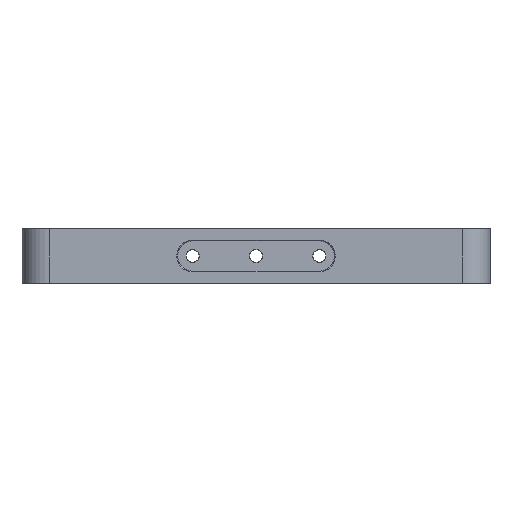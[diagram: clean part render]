
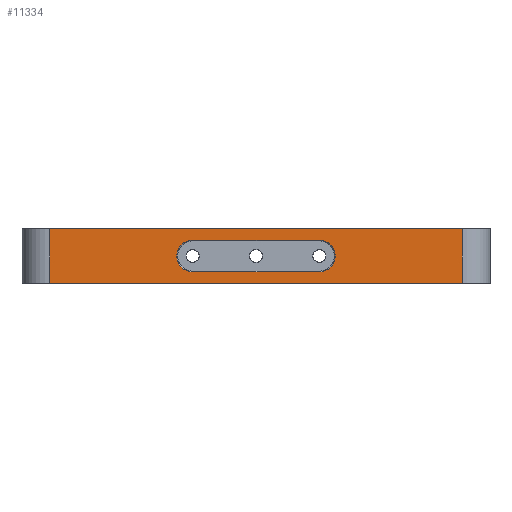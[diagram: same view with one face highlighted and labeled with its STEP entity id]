
A CAD part, front view. The second image highlights one B-rep face of the part: STEP entity #11334.
In plain terms, the highlighted planar face has unit normal (0, -1, 0).
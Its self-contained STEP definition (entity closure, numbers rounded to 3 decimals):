
#35 = VECTOR ( 'NONE', #3196, 1000. ) ;
#239 = VECTOR ( 'NONE', #4531, 1000. ) ;
#659 = CARTESIAN_POINT ( 'NONE',  ( -25., -92.5, 0. ) ) ;
#882 = LINE ( 'NONE', #6069, #10058 ) ;
#977 = CARTESIAN_POINT ( 'NONE',  ( -81.5, -92.5, -10.7 ) ) ;
#1122 = CARTESIAN_POINT ( 'NONE',  ( -25., -92.5, 6.3 ) ) ;
#1345 = VECTOR ( 'NONE', #3767, 1000. ) ;
#1520 = VERTEX_POINT ( 'NONE', #12031 ) ;
#1590 = ORIENTED_EDGE ( 'NONE', *, *, #7349, .T. ) ;
#1851 = FACE_OUTER_BOUND ( 'NONE', #16591, .T. ) ;
#1994 = ORIENTED_EDGE ( 'NONE', *, *, #6875, .T. ) ;
#2341 = CARTESIAN_POINT ( 'NONE',  ( 25., -92.5, 0. ) ) ;
#3196 = DIRECTION ( 'NONE',  ( 1., 0., 0. ) ) ;
#3666 = CARTESIAN_POINT ( 'NONE',  ( 25., -92.5, -6.3 ) ) ;
#3767 = DIRECTION ( 'NONE',  ( -1., 0., 0. ) ) ;
#4000 = LINE ( 'NONE', #11841, #9535 ) ;
#4046 = AXIS2_PLACEMENT_3D ( 'NONE', #2341, #4884, #15291 ) ;
#4282 = AXIS2_PLACEMENT_3D ( 'NONE', #5763, #16173, #9680 ) ;
#4428 = EDGE_CURVE ( 'NONE', #5990, #16567, #16220, .T. ) ;
#4466 = CARTESIAN_POINT ( 'NONE',  ( 25., -92.5, 6.3 ) ) ;
#4487 = DIRECTION ( 'NONE',  ( 0., 0., 1. ) ) ;
#4531 = DIRECTION ( 'NONE',  ( 0., 0., -1. ) ) ;
#4734 = EDGE_CURVE ( 'NONE', #10189, #10456, #16643, .T. ) ;
#4794 = VERTEX_POINT ( 'NONE', #1122 ) ;
#4884 = DIRECTION ( 'NONE',  ( 0., 1., 0. ) ) ;
#5744 = DIRECTION ( 'NONE',  ( -1., 0., 0. ) ) ;
#5763 = CARTESIAN_POINT ( 'NONE',  ( -92.5, -92.5, 11. ) ) ;
#5990 = VERTEX_POINT ( 'NONE', #15076 ) ;
#6069 = CARTESIAN_POINT ( 'NONE',  ( -92.5, -92.5, -10.7 ) ) ;
#6203 = ORIENTED_EDGE ( 'NONE', *, *, #13483, .T. ) ;
#6287 = CARTESIAN_POINT ( 'NONE',  ( 81.5, -92.5, 10.7 ) ) ;
#6294 = CIRCLE ( 'NONE', #15831, 6.3 ) ;
#6875 = EDGE_CURVE ( 'NONE', #1520, #10189, #7586, .T. ) ;
#7032 = PLANE ( 'NONE',  #4282 ) ;
#7349 = EDGE_CURVE ( 'NONE', #10416, #10560, #4000, .T. ) ;
#7586 = CIRCLE ( 'NONE', #4046, 6.3 ) ;
#8462 = DIRECTION ( 'NONE',  ( 1., 0., 0. ) ) ;
#8547 = CARTESIAN_POINT ( 'NONE',  ( -81.5, -92.5, 11. ) ) ;
#8691 = EDGE_CURVE ( 'NONE', #4794, #1520, #16152, .T. ) ;
#9107 = DIRECTION ( 'NONE',  ( 0., 0., 1. ) ) ;
#9233 = EDGE_CURVE ( 'NONE', #10456, #4794, #6294, .T. ) ;
#9535 = VECTOR ( 'NONE', #9107, 1000. ) ;
#9591 = EDGE_LOOP ( 'NONE', ( #1994, #10579, #16431, #14218 ) ) ;
#9678 = ORIENTED_EDGE ( 'NONE', *, *, #4428, .T. ) ;
#9680 = DIRECTION ( 'NONE',  ( 0., 0., 1. ) ) ;
#9989 = CARTESIAN_POINT ( 'NONE',  ( -25., -92.5, -6.3 ) ) ;
#10006 = LINE ( 'NONE', #16322, #16650 ) ;
#10058 = VECTOR ( 'NONE', #8462, 1000. ) ;
#10189 = VERTEX_POINT ( 'NONE', #3666 ) ;
#10416 = VERTEX_POINT ( 'NONE', #14305 ) ;
#10456 = VERTEX_POINT ( 'NONE', #12696 ) ;
#10560 = VERTEX_POINT ( 'NONE', #6287 ) ;
#10579 = ORIENTED_EDGE ( 'NONE', *, *, #4734, .T. ) ;
#11334 = ADVANCED_FACE ( 'NONE', ( #13523, #1851 ), #7032, .F. ) ;
#11841 = CARTESIAN_POINT ( 'NONE',  ( 81.5, -92.5, 11. ) ) ;
#12031 = CARTESIAN_POINT ( 'NONE',  ( 25., -92.5, 6.3 ) ) ;
#12390 = ORIENTED_EDGE ( 'NONE', *, *, #15562, .T. ) ;
#12696 = CARTESIAN_POINT ( 'NONE',  ( -25., -92.5, -6.3 ) ) ;
#13483 = EDGE_CURVE ( 'NONE', #16567, #10416, #882, .T. ) ;
#13523 = FACE_BOUND ( 'NONE', #9591, .T. ) ;
#14218 = ORIENTED_EDGE ( 'NONE', *, *, #8691, .T. ) ;
#14305 = CARTESIAN_POINT ( 'NONE',  ( 81.5, -92.5, -10.7 ) ) ;
#15076 = CARTESIAN_POINT ( 'NONE',  ( -81.5, -92.5, 10.7 ) ) ;
#15291 = DIRECTION ( 'NONE',  ( 0., 0., 1. ) ) ;
#15562 = EDGE_CURVE ( 'NONE', #10560, #5990, #10006, .T. ) ;
#15831 = AXIS2_PLACEMENT_3D ( 'NONE', #659, #16176, #4487 ) ;
#16152 = LINE ( 'NONE', #4466, #35 ) ;
#16173 = DIRECTION ( 'NONE',  ( 0., 1., 0. ) ) ;
#16176 = DIRECTION ( 'NONE',  ( 0., 1., 0. ) ) ;
#16220 = LINE ( 'NONE', #8547, #239 ) ;
#16322 = CARTESIAN_POINT ( 'NONE',  ( -81.5, -92.5, 10.7 ) ) ;
#16431 = ORIENTED_EDGE ( 'NONE', *, *, #9233, .T. ) ;
#16567 = VERTEX_POINT ( 'NONE', #977 ) ;
#16591 = EDGE_LOOP ( 'NONE', ( #9678, #6203, #1590, #12390 ) ) ;
#16643 = LINE ( 'NONE', #9989, #1345 ) ;
#16650 = VECTOR ( 'NONE', #5744, 1000. ) ;
